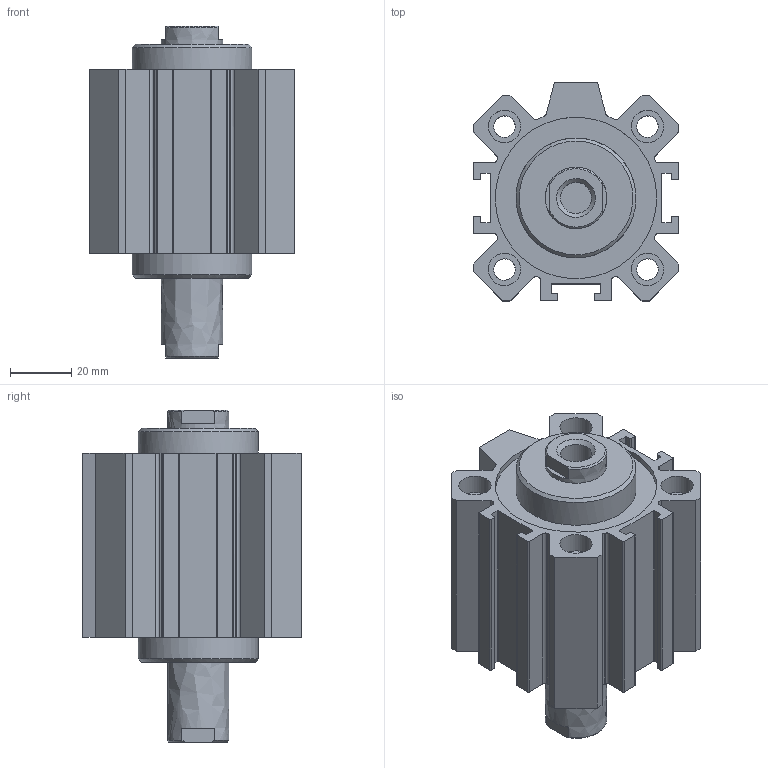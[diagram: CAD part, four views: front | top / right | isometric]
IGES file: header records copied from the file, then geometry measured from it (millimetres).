
Global section: file name: 1514_50_0020; native system: Autodesk Inventor 2014; preprocessor: unknown; author: A. Manieri; date: 20160824.134145; units: millimetre
Bounding box: 67 x 71 x 108 mm (x, y, z)
Volume: 198059.6 mm3; surface area: 63138.7 mm2
Topology: 2 solids, 2 shells, 178 faces, 482 edges, 328 vertices
Faces by surface type: bspline 178
